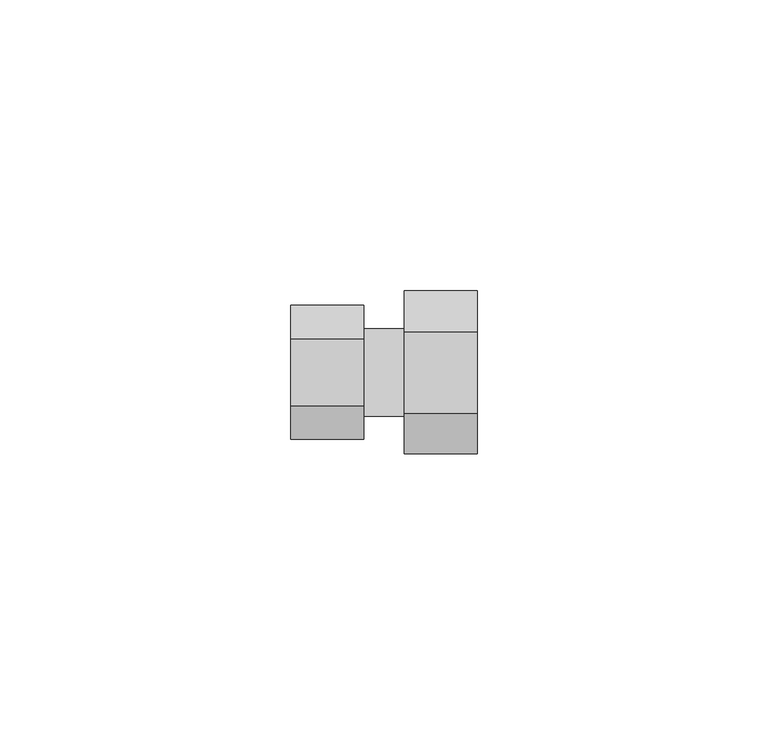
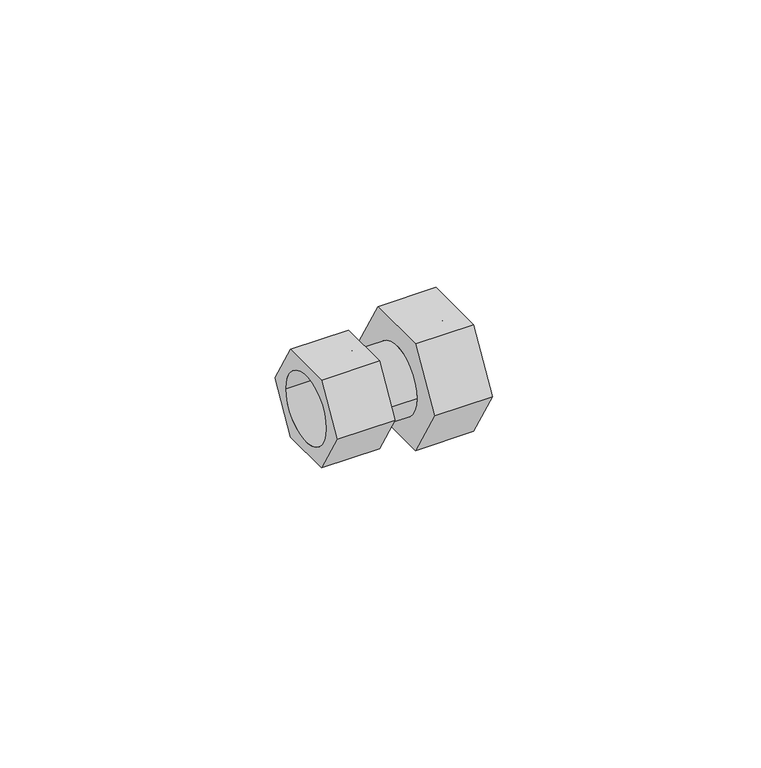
"""IFC4 building model written with IfcOpenShell, lengths in millimetres: pipe fitting geometry, БИР ПЕКС_КМП_Соединитель_Резьба_Внутренняя : Соединитель прямой с внутренней резьбой_КМП."""

from ifc_helpers import new_model, si_unit, point, frame, origin, origin_2d, place, context, project, spatial, polyline, circle_curve, trimmed, segment, composite_curve, outline, extrude, source, transform, mapped, element, save


def pipe_fitting_c2aa8467(model_context):
    return source(origin(), model_context, "Body", "SweptSolid", [
        extrude(outline(polyline([(-5.75, -9.9592921), (-11.5, 0.0), (-5.75, 9.9592921), (5.75, 9.9592921), (11.5, 0.0), (5.75, -9.9592921), (-5.75, -9.9592921)]), holes=[composite_curve([segment(trimmed(circle_curve(origin_2d(), 7.5), [point((-7.5, 0.0))], [point((7.5, 0.0))], True, "CARTESIAN"), True, "CONTINUOUS"), segment(trimmed(circle_curve(origin_2d(), 7.5), [point((7.5, 0.0))], [point((-7.5, 0.0))], True, "CARTESIAN"), True, "CONTINUOUS")], self_intersect=False)]), frame((-19.5, 0.0, 0.0), z_axis=(1.0, 0.0, 0.0), x_axis=(0.0, 1.0, 0.0)), (0.0, 0.0, 1.0), 12.5),
        extrude(outline(polyline([(-7.0, -12.1243557), (-14.0, 0.0), (-7.0, 12.1243557), (7.0, 12.1243557), (14.0, 0.0), (7.0, -12.1243557), (-7.0, -12.1243557)]), holes=[composite_curve([segment(trimmed(circle_curve(origin_2d(), 7.5), [point((-7.5, 0.0))], [point((7.5, 0.0))], True, "CARTESIAN"), True, "CONTINUOUS"), segment(trimmed(circle_curve(origin_2d(), 7.5), [point((7.5, 0.0))], [point((-7.5, 0.0))], True, "CARTESIAN"), True, "CONTINUOUS")], self_intersect=False)]), frame((0.0, 0.0, 0.0), z_axis=(1.0, 0.0, 0.0), x_axis=(0.0, 1.0, 0.0)), (0.0, 0.0, 1.0), 12.5),
        extrude(outline(composite_curve([segment(trimmed(circle_curve(origin_2d(), 7.5), [point((-7.5, 0.0))], [point((7.5, 0.0))], False, "CARTESIAN"), True, "CONTINUOUS"), segment(trimmed(circle_curve(origin_2d(), 7.5), [point((7.5, 0.0))], [point((-7.5, 0.0))], False, "CARTESIAN"), True, "CONTINUOUS")], self_intersect=False)), frame((-7.0, 0.0, 0.0), z_axis=(1.0, 0.0, 0.0), x_axis=(0.0, 1.0, 0.0)), (0.0, 0.0, 1.0), 7.0),
    ])


if __name__ == "__main__":
    model = new_model("IFC4")
    model_context = context("Model", 3, world=origin())
    ifc_project = project(units=[si_unit("LENGTHUNIT", "METRE", prefix="MILLI")], contexts=[model_context])
    site = spatial("IfcSite", under=ifc_project)
    building = spatial("IfcBuilding", under=site)
    placement = place(None, origin())
    pipe_fitting_shape = pipe_fitting_c2aa8467(model_context)
    element("IfcPipeFitting", 1, ObjectType="БИР ПЕКС_КМП_Соединитель_Резьба_Внутренняя : Соединитель прямой с внутренней резьбой_КМП", at=placement, inside=building, context=model_context, shape_type="MappedRepresentation", body=[
        mapped(pipe_fitting_shape, transform((0.0, 0.0, 0.0), x_axis=(1.0, 0.0, 0.0), y_axis=(0.0, 1.0, 0.0), z_axis=(0.0, 0.0, 1.0))),
    ])
    save(model, "model.ifc")
